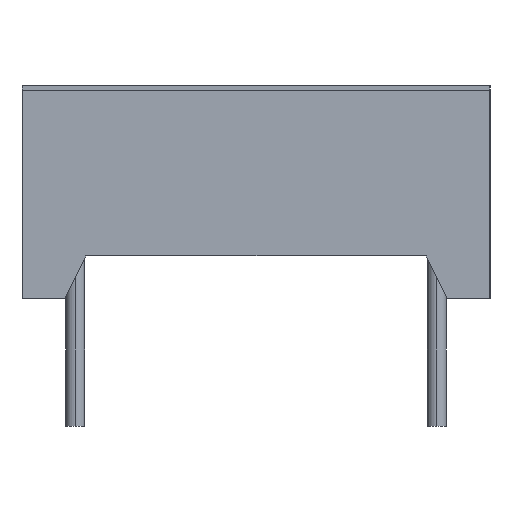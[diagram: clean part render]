
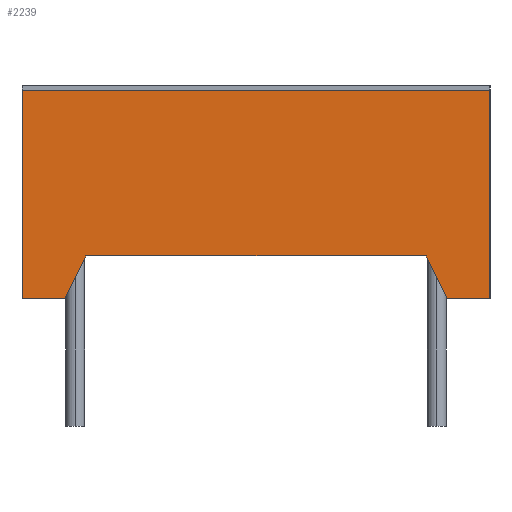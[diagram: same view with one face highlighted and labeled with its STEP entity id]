
A CAD part, left-side view. The second image highlights one B-rep face of the part: STEP entity #2239.
In plain terms, the highlighted planar face has unit normal (-1, 0, 0).
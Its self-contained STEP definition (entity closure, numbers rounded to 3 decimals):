
#2239=ADVANCED_FACE('',(#4529),#4530,.F.);
#4529=FACE_OUTER_BOUND('',#6960,.T.);
#4530=PLANE('',#6961);
#6960=EDGE_LOOP('',(#12942,#12943,#12944,#12945,#12946,#12947,#12948,#12949));
#6961=AXIS2_PLACEMENT_3D('',#12950,#12951,#12952);
#12942=ORIENTED_EDGE('',*,*,#15882,.T.);
#12943=ORIENTED_EDGE('',*,*,#15887,.T.);
#12944=ORIENTED_EDGE('',*,*,#15918,.T.);
#12945=ORIENTED_EDGE('',*,*,#15920,.F.);
#12946=ORIENTED_EDGE('',*,*,#15905,.F.);
#12947=ORIENTED_EDGE('',*,*,#15921,.F.);
#12948=ORIENTED_EDGE('',*,*,#15913,.T.);
#12949=ORIENTED_EDGE('',*,*,#15878,.F.);
#12950=CARTESIAN_POINT('',(-14.0,0.0,2.45));
#12951=DIRECTION('',(1.0,0.0,0.0));
#12952=DIRECTION('',(0.0,0.0,-1.0));
#15878=EDGE_CURVE('',#19477,#19479,#19480,.T.);
#15882=EDGE_CURVE('',#19477,#19483,#19485,.T.);
#15887=EDGE_CURVE('',#19483,#19489,#19491,.T.);
#15905=EDGE_CURVE('',#19515,#19517,#19518,.T.);
#15913=EDGE_CURVE('',#19527,#19479,#19528,.T.);
#15918=EDGE_CURVE('',#19489,#19533,#19535,.T.);
#15920=EDGE_CURVE('',#19517,#19533,#19537,.T.);
#15921=EDGE_CURVE('',#19527,#19515,#19538,.T.);
#19477=VERTEX_POINT('',#24735);
#19479=VERTEX_POINT('',#24738);
#19480=LINE('',#24739,#24740);
#19483=VERTEX_POINT('',#24744);
#19485=LINE('',#24747,#24748);
#19489=VERTEX_POINT('',#24753);
#19491=LINE('',#24756,#24757);
#19515=VERTEX_POINT('',#24792);
#19517=VERTEX_POINT('',#24795);
#19518=LINE('',#24796,#24797);
#19527=VERTEX_POINT('',#24810);
#19528=LINE('',#24811,#24812);
#19533=VERTEX_POINT('',#24819);
#19535=LINE('',#24822,#24823);
#19537=LINE('',#24825,#24826);
#19538=LINE('',#24827,#24828);
#24735=CARTESIAN_POINT('',(-14.0,4.5,0.));
#24738=CARTESIAN_POINT('',(-14.0,5.5,0.));
#24739=CARTESIAN_POINT('',(-14.0,0.0,0.));
#24740=VECTOR('',#26822,1.0);
#24744=CARTESIAN_POINT('',(-14.0,4.,1.));
#24747=CARTESIAN_POINT('',(-14.0,3.435,2.13));
#24748=VECTOR('',#26825,1.0);
#24753=CARTESIAN_POINT('',(-14.0,-4.,1.));
#24756=CARTESIAN_POINT('',(-14.0,0.,1.));
#24757=VECTOR('',#26828,1.0);
#24792=CARTESIAN_POINT('',(-14.0,-5.5,4.9));
#24795=CARTESIAN_POINT('',(-14.0,-5.5,0.));
#24796=CARTESIAN_POINT('',(-14.0,-5.5,2.45));
#24797=VECTOR('',#26841,1.0);
#24810=CARTESIAN_POINT('',(-14.0,5.5,4.9));
#24811=CARTESIAN_POINT('',(-14.0,5.5,2.45));
#24812=VECTOR('',#26846,1.0);
#24819=CARTESIAN_POINT('',(-14.0,-4.5,0.));
#24822=CARTESIAN_POINT('',(-14.0,-3.435,2.13));
#24823=VECTOR('',#26850,1.0);
#24825=CARTESIAN_POINT('',(-14.0,0.0,0.));
#24826=VECTOR('',#26851,1.0);
#24827=CARTESIAN_POINT('',(-14.0,0.0,4.9));
#24828=VECTOR('',#26852,1.0);
#26822=DIRECTION('',(0.0,1.0,0.0));
#26825=DIRECTION('',(0.0,-0.447,0.894));
#26828=DIRECTION('',(0.0,-1.0,0.));
#26841=DIRECTION('',(0.0,0.0,-1.0));
#26846=DIRECTION('',(0.0,0.0,-1.0));
#26850=DIRECTION('',(0.0,-0.447,-0.894));
#26851=DIRECTION('',(0.0,1.0,0.0));
#26852=DIRECTION('',(0.0,-1.0,0.0));
